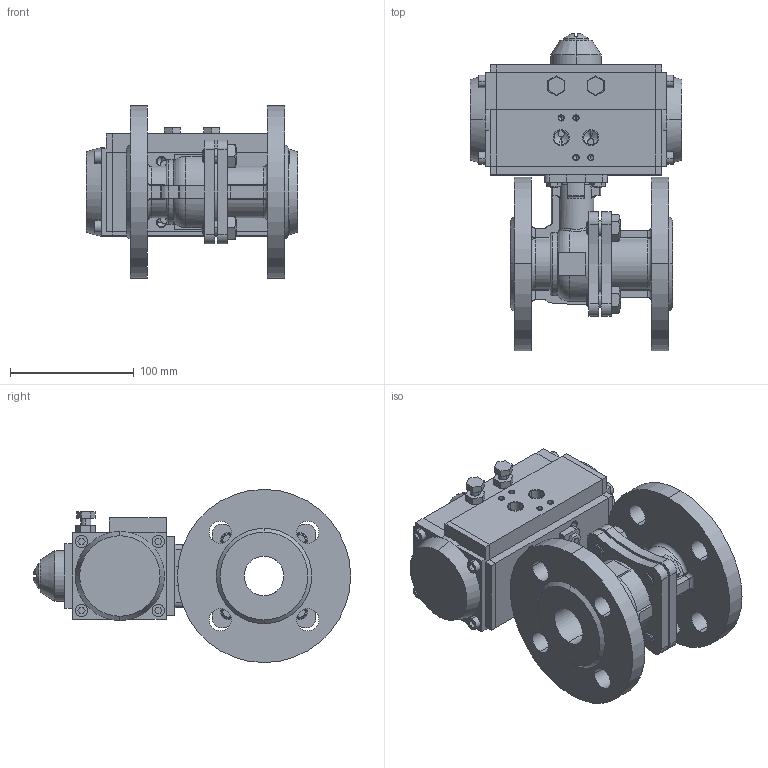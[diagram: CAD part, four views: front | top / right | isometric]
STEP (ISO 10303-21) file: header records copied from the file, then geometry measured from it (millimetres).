
FILE_DESCRIPTION((''),'2;1');
FILE_NAME('BV-22F_RPA_ASM','2024-09-11T',('USER'),(''),'PRO/ENGINEER BY PARAMETRIC TECHNOLOGY CORPORATION, 2011220','PRO/ENGINEER BY PARAMETRIC TECHNOLOGY CORPORATION, 2011220','');
FILE_SCHEMA(('CONFIG_CONTROL_DESIGN'));
Length unit declared in the file: millimetre
Products named in the file (12): KORPUS_KRAN_FL; B-7798-M12-20; SB_KRAN_FL_ASM; KORPUS_PNEVMOPRIVOD; KOLCO_18_GOST13942; KRISKA_VERX; VINT; KRISKA_LEFT; KRISKA_RIGHT; SB_PNEVMOPRIVOD_ASM; B-7798-M6-14; BV-22F_RPA_ASM
Assembly tree (17 placements, depth 3):
  BV-22F_RPA_ASM
    SB_KRAN_FL_ASM
      KORPUS_KRAN_FL
      B-7798-M12-20  x4
    SB_PNEVMOPRIVOD_ASM
      KORPUS_PNEVMOPRIVOD
      KOLCO_18_GOST13942
      KRISKA_VERX
      VINT
      KRISKA_LEFT
      KRISKA_RIGHT
    B-7798-M6-14  x4
Bounding box: 171 x 256.43 x 140 mm (x, y, z)
Volume: 1710704.9 mm3; surface area: 260259.1 mm2
Topology: 15 solids, 49 shells, 824 faces, 2108 edges, 1356 vertices
Faces by surface type: plane 410, cylinder 285, cone 82, torus 29, bspline 14, extrusion 2, sphere 2
Entity records: 23117 total; most frequent: CARTESIAN_POINT 5044, DIRECTION 3854, ORIENTED_EDGE 3520, EDGE_CURVE 1818, AXIS2_PLACEMENT_3D 1380, VERTEX_POINT 1200, VECTOR 1094, LINE 1092
